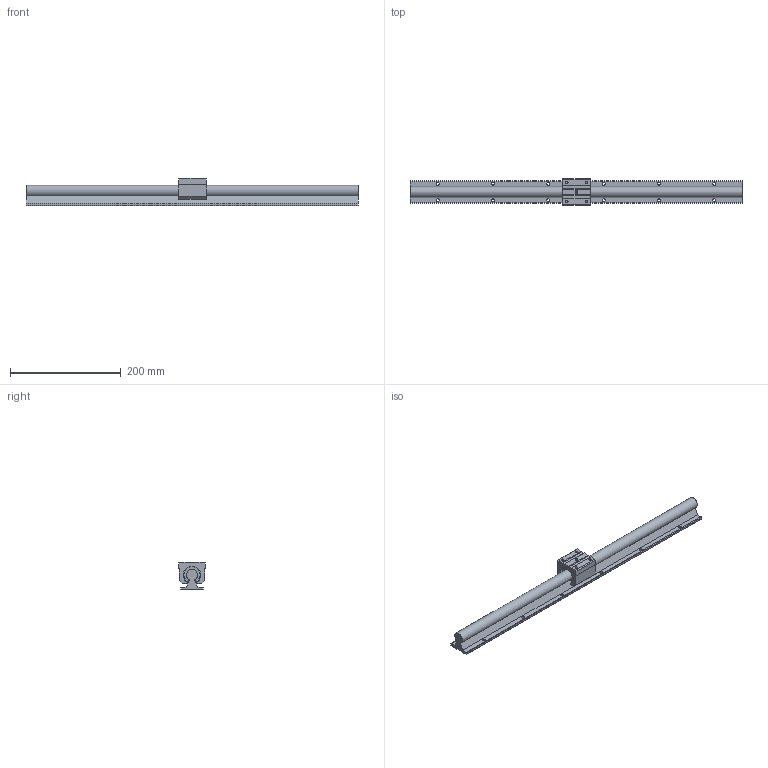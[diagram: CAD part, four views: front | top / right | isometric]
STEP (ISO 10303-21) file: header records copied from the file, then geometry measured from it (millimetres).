
FILE_DESCRIPTION((''),'2;1');
FILE_NAME('C:\Documents and Settings\土屋\My Documents\土屋移動用フォルダ\製品 (図面)\カタログ用3D\リニアガイド\GHA\GHAW20.stp','2015-05-28T09:40:57',('y'),(''),'Autodesk Inventor 11','Autodesk Inventor 11','');
FILE_SCHEMA(('AUTOMOTIVE_DESIGN { 1 0 10303 214 1 1 1 1 }'));
Length unit declared in the file: millimetre
Products named in the file (3): GHAW20; GAW20R1; GHA20H
Assembly tree (2 placements, depth 2):
  GHAW20
    GAW20R1
    GHA20H
Bounding box: 600 x 48 x 50 mm (x, y, z)
Volume: 478347.4 mm3; surface area: 109089.8 mm2
Topology: 2 solids, 2 shells, 171 faces, 461 edges, 303 vertices
Faces by surface type: plane 100, cylinder 46, bspline 10, torus 8, cone 7
Full cylindrical faces by diameter (mm): 5.5 x12, 8.5 x6, 8.9 x6
Entity records: 5079 total; most frequent: CARTESIAN_POINT 1080, DIRECTION 792, ORIENTED_EDGE 776, EDGE_CURVE 388, AXIS2_PLACEMENT_3D 280, VERTEX_POINT 276, EDGE_LOOP 254, VECTOR 232
